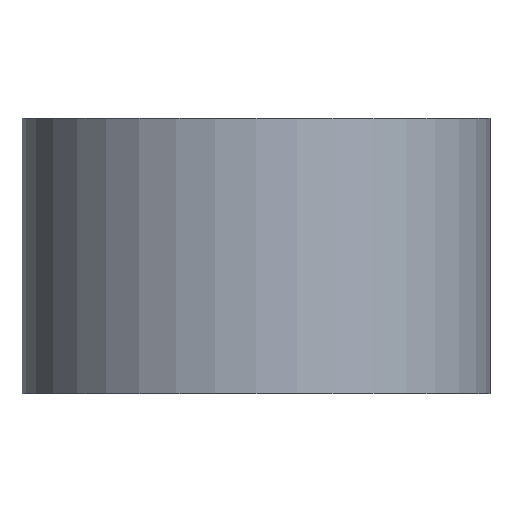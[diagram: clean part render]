
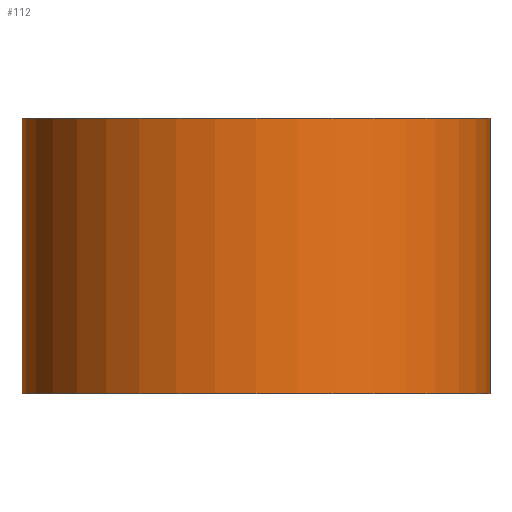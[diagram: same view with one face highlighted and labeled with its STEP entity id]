
A CAD part, front view. The second image highlights one B-rep face of the part: STEP entity #112.
In plain terms, the highlighted cylindrical face has radius 17 mm (diameter 34 mm), a partial arc.
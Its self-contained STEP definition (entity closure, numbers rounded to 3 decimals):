
#112=ADVANCED_FACE('',(#125),#119,.T.);
#119=CYLINDRICAL_SURFACE('',#254,17.);
#125=FACE_OUTER_BOUND('',#135,.T.);
#135=EDGE_LOOP('',(#177,#178,#179,#180));
#149=CIRCLE('',#250,17.);
#151=CIRCLE('',#253,17.);
#177=ORIENTED_EDGE('',*,*,#221,.T.);
#178=ORIENTED_EDGE('',*,*,#222,.F.);
#179=ORIENTED_EDGE('',*,*,#223,.F.);
#180=ORIENTED_EDGE('',*,*,#219,.T.);
#203=VERTEX_POINT('',#344);
#204=VERTEX_POINT('',#345);
#205=VERTEX_POINT('',#349);
#206=VERTEX_POINT('',#351);
#219=EDGE_CURVE('',#203,#204,#149,.T.);
#221=EDGE_CURVE('',#204,#205,#231,.T.);
#222=EDGE_CURVE('',#206,#205,#151,.T.);
#223=EDGE_CURVE('',#203,#206,#232,.T.);
#231=LINE('',#348,#235);
#232=LINE('',#352,#236);
#235=VECTOR('',#298,1.);
#236=VECTOR('',#301,1.);
#250=AXIS2_PLACEMENT_3D('',#343,#292,#293);
#253=AXIS2_PLACEMENT_3D('',#350,#299,#300);
#254=AXIS2_PLACEMENT_3D('',#353,#302,#303);
#292=DIRECTION('',(0.,0.,1.));
#293=DIRECTION('',(0.,1.,0.));
#298=DIRECTION('',(0.,0.,1.));
#299=DIRECTION('',(0.,0.,1.));
#300=DIRECTION('',(0.,1.,0.));
#301=DIRECTION('',(0.,0.,1.));
#302=DIRECTION('',(0.,0.,1.));
#303=DIRECTION('',(0.,-1.,0.));
#343=CARTESIAN_POINT('',(0.,0.,-20.));
#344=CARTESIAN_POINT('',(-17.,0.,-20.));
#345=CARTESIAN_POINT('',(17.,0.,-20.));
#348=CARTESIAN_POINT('',(17.,0.,0.));
#349=CARTESIAN_POINT('',(17.,0.,0.));
#350=CARTESIAN_POINT('',(0.,0.,0.));
#351=CARTESIAN_POINT('',(-17.,0.,0.));
#352=CARTESIAN_POINT('',(-17.,0.,0.));
#353=CARTESIAN_POINT('',(0.,0.,-20.));
